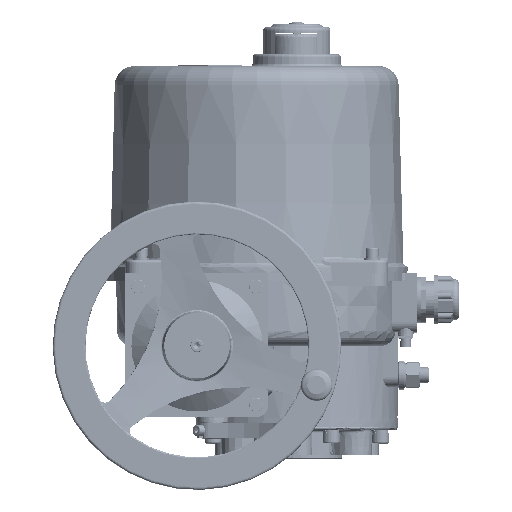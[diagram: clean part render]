
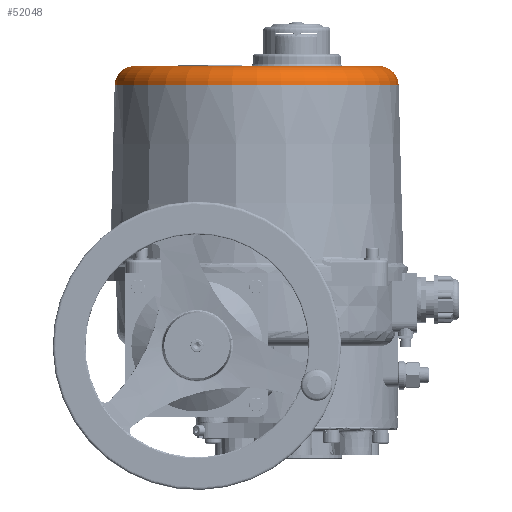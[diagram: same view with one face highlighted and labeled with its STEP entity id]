
A CAD part, top view. The second image highlights one B-rep face of the part: STEP entity #52048.
In plain terms, the highlighted toroidal (fillet/blend) face has major radius 93.251 mm and minor radius 15 mm.
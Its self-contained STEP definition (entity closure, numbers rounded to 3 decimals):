
#52048=ADVANCED_FACE('',(#80350,#80352),#80354,.T.);
#80350=FACE_BOUND('',#80351,.T.);
#80351=EDGE_LOOP('',(#99191,#99192,#99193));
#80352=FACE_BOUND('',#80353,.T.);
#80353=EDGE_LOOP('',(#99194,#99195));
#80354=TOROIDAL_SURFACE('',#80355,93.251,15.);
#80355=AXIS2_PLACEMENT_3D('',#80356,#80357,#80358);
#80356=CARTESIAN_POINT('',(-30.5,253.5,27.));
#80357=DIRECTION('',(0.,-1.,0.));
#80358=DIRECTION('',(0.,0.,1.));
#99191=ORIENTED_EDGE('',*,*,#112725,.F.);
#99192=ORIENTED_EDGE('',*,*,#112724,.F.);
#99193=ORIENTED_EDGE('',*,*,#112723,.F.);
#99194=ORIENTED_EDGE('',*,*,#113009,.T.);
#99195=ORIENTED_EDGE('',*,*,#113010,.T.);
#112723=EDGE_CURVE('',#150865,#150866,#150867,.T.);
#112724=EDGE_CURVE('',#150866,#150868,#150869,.T.);
#112725=EDGE_CURVE('',#150868,#150865,#150870,.T.);
#113009=EDGE_CURVE('',#151353,#151354,#151355,.T.);
#113010=EDGE_CURVE('',#151354,#151353,#151356,.T.);
#150865=VERTEX_POINT('',#206639);
#150866=VERTEX_POINT('',#206640);
#150867=CIRCLE('',#206641,108.246);
#150868=VERTEX_POINT('',#206645);
#150869=CIRCLE('',#206646,108.246);
#150870=CIRCLE('',#206650,108.246);
#151353=VERTEX_POINT('',#209781);
#151354=VERTEX_POINT('',#209782);
#151355=CIRCLE('',#209783,93.251);
#151356=CIRCLE('',#209787,93.251);
#206639=CARTESIAN_POINT('',(77.746,253.893,27.));
#206640=CARTESIAN_POINT('',(-138.746,253.893,27.));
#206641=AXIS2_PLACEMENT_3D('',#206642,#206643,#206644);
#206642=CARTESIAN_POINT('',(-30.5,253.893,27.));
#206643=DIRECTION('',(0.,-1.,0.));
#206644=DIRECTION('',(1.,0.,0.));
#206645=CARTESIAN_POINT('',(-87.476,253.893,-65.038));
#206646=AXIS2_PLACEMENT_3D('',#206647,#206648,#206649);
#206647=CARTESIAN_POINT('',(-30.5,253.893,27.));
#206648=DIRECTION('',(0.,-1.,0.));
#206649=DIRECTION('',(-1.,0.,0.));
#206650=AXIS2_PLACEMENT_3D('',#206651,#206652,#206653);
#206651=CARTESIAN_POINT('',(-30.5,253.893,27.));
#206652=DIRECTION('',(0.,-1.,0.));
#206653=DIRECTION('',(-0.526,0.,-0.85));
#209781=CARTESIAN_POINT('',(62.751,268.5,27.));
#209782=CARTESIAN_POINT('',(-123.751,268.5,27.));
#209783=AXIS2_PLACEMENT_3D('',#209784,#209785,#209786);
#209784=CARTESIAN_POINT('',(-30.5,268.5,27.));
#209785=DIRECTION('',(0.,-1.,0.));
#209786=DIRECTION('',(1.,0.,0.));
#209787=AXIS2_PLACEMENT_3D('',#209788,#209789,#209790);
#209788=CARTESIAN_POINT('',(-30.5,268.5,27.));
#209789=DIRECTION('',(0.,-1.,0.));
#209790=DIRECTION('',(-1.,0.,0.));
